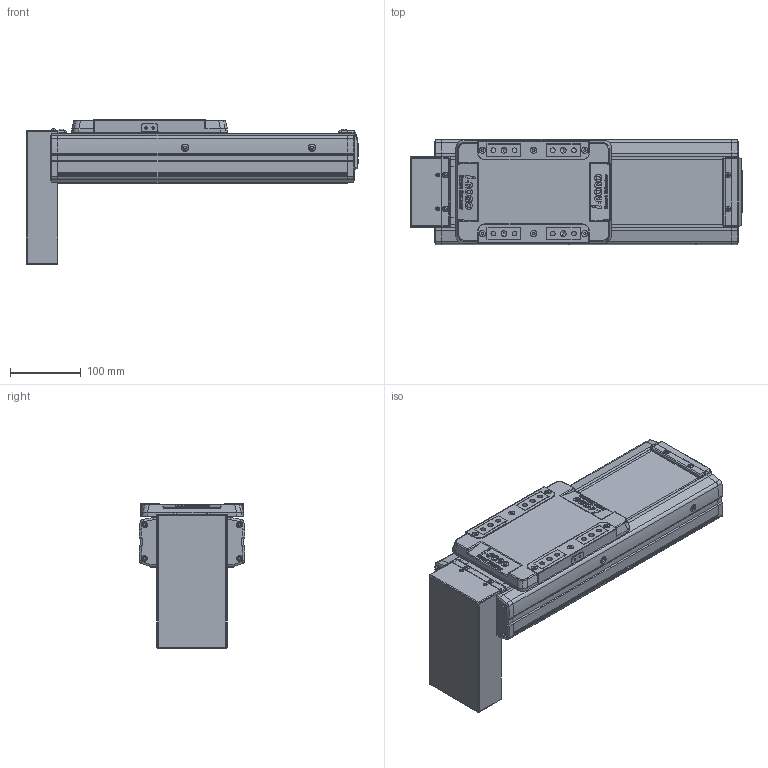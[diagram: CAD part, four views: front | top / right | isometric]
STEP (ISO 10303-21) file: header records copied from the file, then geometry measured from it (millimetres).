
FILE_DESCRIPTION(('STEP AP214'),'1');
FILE_NAME('Z:/Web/3D/SAN150/2013.04 (STP.)/SAN150ㅁㅁ-150PB.stp','2013-05-08T02:44:23',(' '),(' '),'Spatial InterOp 3D',' ',' ');
FILE_SCHEMA(('automotive_design'));
Length unit declared in the file: millimetre
Products named in the file (40): SLBL-SAN150; SLCV-SAN150; FHCS M4.0 x 8.0; BHCS M4.0 x 10.0; SFX-SAN150; RRCV-SAN150; FRBL-SAN150; Spacer; RN15; FRCV-SAN150; Screw 20; BASE-SAN150-000L ; SUS COVER; 스크루 : Round - M5.0 x 6.0; PB; 스크루 : Round - M3.0 x 6.0
Bounding box: 470 x 150 x 205.4 mm (x, y, z)
Volume: 3795995.8 mm3; surface area: 636057.2 mm2
Topology: 40 solids, 40 shells, 2019 faces, 5170 edges, 3307 vertices
Faces by surface type: plane 1021, cylinder 695, cone 210, sphere 60, bspline 21, torus 12
Entity records: 79632 total; most frequent: CARTESIAN_POINT 12674, DIRECTION 10980, ORIENTED_EDGE 10156, EDGE_CURVE 5078, AXIS2_PLACEMENT_3D 3932, VERTEX_POINT 3307, LINE 3116, VECTOR 3116
